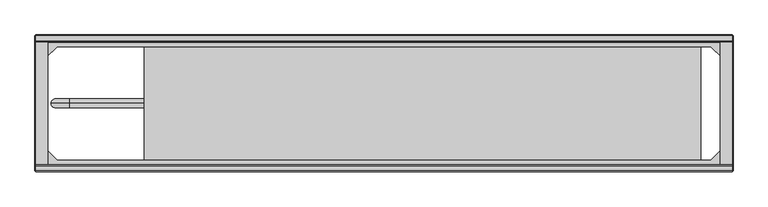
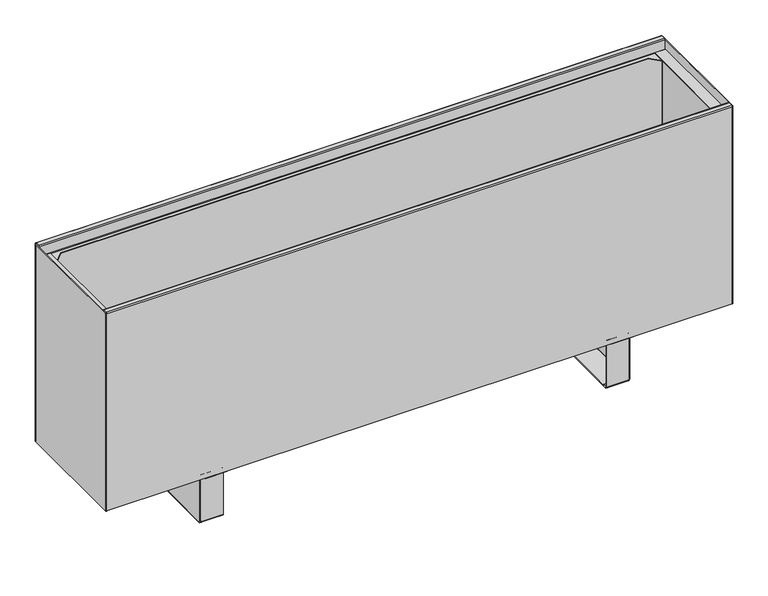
"""IFC4 building model written with IfcOpenShell, lengths in millimetres: proxy geometry, TECHNO_Конвектор напольный_Vita KPZ 235 : KPZ 235-400-2."""

from ifc_helpers import new_model, si_unit, point, frame, origin, place, context, project, spatial, polyline, circle_curve, ellipse_curve, trimmed, outline, extrude, source, transform, mapped, element, save
from ifc_brep_helpers import plane_surface, cylinder_surface, revolved_surface, advanced_brep


def mechanical_equipment_f758acba(model_context):
    return source(origin(), model_context, "Body", "SolidModel", [
        advanced_brep(
        [(409.7, -116.8, 1.5), (409.7, -114.5, 3.8), (409.7, -114.5, 4.9), (409.7, -116.0, 4.9), (409.7, -116.0, 3.8), (409.7, -116.8, 3.0), (409.7, -124.5, 3.0), (409.7, -124.5, 1.5), (409.7, -117.6, 1.5), (409.7, -114.5, 97.7), (409.7, -113.7, 98.5), (409.7, -101.0, 98.5), (409.7, -101.0, 100.0), (409.7, -113.7, 100.0), (409.7, -116.0, 97.7), (409.7, -116.0, 95.5), (409.7, -114.5, 95.5), (409.7, -320.5, 3.8), (409.7, -318.2, 1.5), (409.7, -317.4, 1.5), (409.7, -310.5, 1.5), (409.7, -310.5, 3.0), (409.7, -318.2, 3.0), (409.7, -319.0, 3.8), (409.7, -319.0, 4.9), (409.7, -320.5, 4.9), (409.7, -319.0, 97.7), (409.7, -321.3, 100.0), (409.7, -334.0, 100.0), (409.7, -334.0, 98.5), (409.7, -321.3, 98.5), (409.7, -320.5, 97.7), (409.7, -320.5, 95.5), (409.7, -319.0, 95.5), (367.0, -320.5, 97.7), (367.0, -321.3, 98.5), (367.0, -334.0, 98.5), (367.0, -334.0, 100.0), (367.0, -321.3, 100.0), (367.0, -319.0, 97.7), (367.0, -319.0, 3.8), (367.0, -318.2, 3.0), (367.0, -310.5, 3.0), (367.0, -310.5, 1.5), (367.0, -124.5, 1.5), (367.0, -124.5, 3.0), (367.0, -116.8, 3.0), (367.0, -116.0, 3.8), (367.0, -116.0, 97.7), (367.0, -113.7, 100.0), (367.0, -101.0, 100.0), (367.0, -101.0, 98.5), (367.0, -113.7, 98.5), (367.0, -114.5, 97.7), (367.0, -114.5, 3.8), (367.0, -116.8, 1.5), (367.0, -117.6, 1.5), (367.0, -117.6, 0.0), (367.0, -317.4, 0.0), (367.0, -317.4, 1.5), (367.0, -318.2, 1.5), (367.0, -320.5, 3.8), (410.5, -116.8, 95.5), (410.5, -318.2, 95.5), (412.0, -318.2, 95.5), (412.0, -116.8, 95.5), (412.0, -116.8, 4.9), (412.0, -117.6, 4.9), (410.5, -117.6, 4.9), (410.5, -116.8, 4.9), (410.5, -318.2, 4.9), (410.5, -317.4, 4.9), (412.0, -317.4, 4.9), (412.0, -318.2, 4.9), (410.5, -117.6, 2.3), (410.5, -317.4, 2.3), (411.9999999, -317.4, 2.3), (412.0, -117.6, 2.3), (409.7, -117.6, 0.0), (409.7, -317.4, 0.0)],
        [
            (0, 1, circle_curve(frame((409.7, -116.8, 3.8), z_axis=(1.0, 0.0, 0.0), x_axis=(0.0, -1.0, 0.0)), 2.3)),
            (1, 2),
            (2, 3),
            (3, 4),
            (4, 5, circle_curve(frame((409.7, -116.8, 3.8), z_axis=(-1.0, 0.0, 0.0), x_axis=(0.0, -1.0, 0.0)), 0.8)),
            (5, 6),
            (6, 7),
            (7, 8),
            (8, 0),
            (9, 10, circle_curve(frame((409.7, -113.7, 97.7), z_axis=(-1.0, 0.0, 0.0), x_axis=(0.0, -1.0, 0.0)), 0.8)),
            (10, 11),
            (11, 12),
            (12, 13),
            (13, 14, circle_curve(frame((409.7, -113.7, 97.7), z_axis=(1.0, 0.0, 0.0), x_axis=(0.0, -1.0, 0.0)), 2.3)),
            (14, 15),
            (15, 16),
            (16, 9),
            (17, 18, circle_curve(frame((409.7, -318.2, 3.8), z_axis=(1.0, 0.0, 0.0), x_axis=(0.0, -1.0, 0.0)), 2.3)),
            (18, 19),
            (19, 20),
            (20, 21),
            (21, 22),
            (22, 23, circle_curve(frame((409.7, -318.2, 3.8), z_axis=(-1.0, 0.0, 0.0), x_axis=(0.0, -1.0, 0.0)), 0.8)),
            (23, 24),
            (24, 25),
            (25, 17),
            (26, 27, circle_curve(frame((409.7, -321.3, 97.7), z_axis=(1.0, 0.0, 0.0), x_axis=(0.0, -1.0, 0.0)), 2.3)),
            (27, 28),
            (28, 29),
            (29, 30),
            (30, 31, circle_curve(frame((409.7, -321.3, 97.7), z_axis=(-1.0, 0.0, 0.0), x_axis=(0.0, -1.0, 0.0)), 0.8)),
            (31, 32),
            (32, 33),
            (33, 26),
            (34, 35, circle_curve(frame((367.0, -321.3, 97.7), z_axis=(1.0, 0.0, 0.0), x_axis=(0.0, -1.0, 0.0)), 0.8)),
            (35, 36),
            (36, 37),
            (37, 38),
            (38, 39, circle_curve(frame((367.0, -321.3, 97.7), z_axis=(-1.0, 0.0, 0.0), x_axis=(0.0, -1.0, 0.0)), 2.3)),
            (39, 40),
            (40, 41, circle_curve(frame((367.0, -318.2, 3.8), z_axis=(1.0, 0.0, 0.0), x_axis=(0.0, -1.0, 0.0)), 0.8)),
            (41, 42),
            (42, 43),
            (43, 44),
            (44, 45),
            (45, 46),
            (46, 47, circle_curve(frame((367.0, -116.8, 3.8), z_axis=(1.0, 0.0, 0.0), x_axis=(0.0, -1.0, 0.0)), 0.8)),
            (47, 48),
            (48, 49, circle_curve(frame((367.0, -113.7, 97.7), z_axis=(-1.0, 0.0, 0.0), x_axis=(0.0, -1.0, 0.0)), 2.3)),
            (49, 50),
            (50, 51),
            (51, 52),
            (52, 53, circle_curve(frame((367.0, -113.7, 97.7), z_axis=(1.0, 0.0, 0.0), x_axis=(0.0, -1.0, 0.0)), 0.8)),
            (53, 54),
            (54, 55, circle_curve(frame((367.0, -116.8, 3.8), z_axis=(-1.0, 0.0, 0.0), x_axis=(0.0, -1.0, 0.0)), 2.3)),
            (55, 56),
            (56, 57),
            (57, 58),
            (58, 59),
            (59, 60),
            (60, 61, circle_curve(frame((367.0, -318.2, 3.8), z_axis=(-1.0, 0.0, 0.0), x_axis=(0.0, -1.0, 0.0)), 2.3)),
            (61, 34),
            (30, 35),
            (34, 31),
            (29, 36),
            (28, 37),
            (27, 38),
            (26, 39),
            (33, 24),
            (23, 40),
            (22, 41),
            (5, 46),
            (45, 6),
            (4, 47),
            (3, 15),
            (14, 48),
            (13, 49),
            (12, 50),
            (11, 51),
            (10, 52),
            (9, 53),
            (16, 2),
            (1, 54),
            (0, 55),
            (8, 56),
            (17, 61),
            (60, 18),
            (25, 32),
            (21, 42),
            (20, 43),
            (59, 19),
            (44, 7),
            (15, 62, circle_curve(frame((409.7, -116.8, 95.5), z_axis=(0.0, 0.0, -1.0), x_axis=(-1.0, 0.0, 0.0)), 0.8)),
            (62, 63),
            (63, 33, circle_curve(frame((409.7, -318.2, 95.5), z_axis=(0.0, 0.0, -1.0), x_axis=(-1.0, 0.0, 0.0)), 0.8)),
            (32, 64, circle_curve(frame((409.7, -318.2, 95.5), z_axis=(0.0, 0.0, 1.0), x_axis=(-1.0, 0.0, 0.0)), 2.3)),
            (64, 65),
            (65, 16, circle_curve(frame((409.7, -116.8, 95.5), z_axis=(0.0, 0.0, 1.0), x_axis=(-1.0, 0.0, 0.0)), 2.3)),
            (2, 66, circle_curve(frame((409.7, -116.8, 4.9), z_axis=(0.0, 0.0, -1.0), x_axis=(-1.0, 0.0, 0.0)), 2.3)),
            (66, 67),
            (67, 68),
            (68, 69),
            (69, 3, circle_curve(frame((409.7, -116.8, 4.9), z_axis=(0.0, 0.0, 1.0), x_axis=(-1.0, 0.0, 0.0)), 0.8)),
            (24, 70, circle_curve(frame((409.7, -318.2, 4.9), z_axis=(0.0, 0.0, 1.0), x_axis=(-1.0, 0.0, 0.0)), 0.8)),
            (70, 71),
            (71, 72),
            (72, 73),
            (73, 25, circle_curve(frame((409.7, -318.2, 4.9), z_axis=(0.0, 0.0, -1.0), x_axis=(-1.0, 0.0, 0.0)), 2.3)),
            (69, 62),
            (68, 74),
            (74, 75),
            (75, 71),
            (70, 63),
            (64, 73),
            (72, 76),
            (76, 77),
            (77, 67),
            (66, 65),
            (8, 74, circle_curve(frame((409.7, -117.6, 2.3), z_axis=(0.0, -1.0, 0.0), x_axis=(-1.0, 0.0, 0.0)), 0.8)),
            (77, 78, circle_curve(frame((409.7, -117.6, 2.3), z_axis=(0.0, 1.0, 0.0), x_axis=(-1.0, 0.0, 0.0)), 2.3)),
            (78, 57),
            (58, 79),
            (79, 76, circle_curve(frame((409.7, -317.4, 2.3), z_axis=(0.0, -1.0, 0.0), x_axis=(-1.0, 0.0, 0.0)), 2.3)),
            (75, 19, circle_curve(frame((409.7, -317.4, 2.3), z_axis=(0.0, 1.0, 0.0), x_axis=(-1.0, 0.0, 0.0)), 0.8)),
            (20, 7),
            (79, 78),
        ],
        [
            plane_surface(frame((409.7, -322.1, 97.7), z_axis=(1.0, 0.0, 0.0), x_axis=(0.0, 0.0, 1.0))),
            plane_surface(frame((367.0, -322.1, 97.7), z_axis=(-1.0, 0.0, 0.0), x_axis=(0.0, 0.0, -1.0))),
            revolved_surface(polyline([(409.7, -322.1, 97.7), (367.0, -322.1, 97.7)]), (409.7, -321.3, 97.7), (1.0, 0.0, 0.0)),
            plane_surface(frame((367.0, -321.3, 98.5), z_axis=(0.0, 0.0, -1.0), x_axis=(1.0, 0.0, 0.0))),
            plane_surface(frame((367.0, -334.0, 98.5), z_axis=(0.0, -1.0, 0.0), x_axis=(1.0, 0.0, 0.0))),
            plane_surface(frame((367.0, -334.0, 100.0), z_axis=(0.0, 0.0, 1.0), x_axis=(1.0, 0.0, 0.0))),
            cylinder_surface(frame((409.7, -321.3, 97.7), z_axis=(-1.0, 0.0, 0.0), x_axis=(0.0, -1.0, 0.0)), 2.3),
            plane_surface(frame((367.0, -319.0, 97.7), z_axis=(0.0, 1.0, 3.691903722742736e-12), x_axis=(1.0, 0.0, 0.0))),
            revolved_surface(polyline([(409.7, -319.0, 3.8), (367.0, -319.0, 3.8)]), (409.7, -318.2, 3.8), (1.0, 0.0, 0.0)),
            plane_surface(frame((367.0, -124.5, 3.0), z_axis=(0.0, 0.0, 1.0), x_axis=(1.0, 0.0, 0.0))),
            revolved_surface(polyline([(409.7, -117.6, 3.8), (367.0, -117.6, 3.8)]), (412.0, -116.8, 3.8), (1.0, 0.0, 0.0)),
            plane_surface(frame((367.0, -116.0, 3.8), z_axis=(0.0, -1.0, 0.0), x_axis=(1.0, 0.0, 0.0))),
            cylinder_surface(frame((412.0, -113.7, 97.7), z_axis=(-1.0, 0.0, 0.0), x_axis=(0.0, -1.0, 0.0)), 2.3),
            plane_surface(frame((367.0, -113.7, 100.0), z_axis=(0.0, 0.0, 1.0), x_axis=(1.0, 0.0, 0.0))),
            plane_surface(frame((367.0, -101.0, 100.0), z_axis=(0.0, 1.0, 0.0), x_axis=(1.0, 0.0, 0.0))),
            plane_surface(frame((367.0, -101.0, 98.5), z_axis=(0.0, 0.0, -1.0), x_axis=(1.0, 0.0, 0.0))),
            revolved_surface(polyline([(409.7, -114.5, 97.7), (367.0, -114.5, 97.7)]), (412.0, -113.7, 97.7), (1.0, 0.0, 0.0)),
            plane_surface(frame((367.0, -114.5, 97.7), z_axis=(0.0, 1.0, 0.0), x_axis=(1.0, 0.0, 0.0))),
            cylinder_surface(frame((412.0, -116.8, 3.8), z_axis=(-1.0, 0.0, 0.0), x_axis=(0.0, -1.0, 0.0)), 2.3),
            plane_surface(frame((367.0, -116.8, 1.5), z_axis=(0.0, 0.0, -1.0), x_axis=(1.0, 0.0, 0.0))),
            cylinder_surface(frame((409.7, -318.2, 3.8), z_axis=(-1.0, 0.0, 0.0), x_axis=(0.0, -1.0, 0.0)), 2.3),
            plane_surface(frame((367.0, -320.5, 3.8), z_axis=(0.0, -1.0, 0.0), x_axis=(1.0, 0.0, 0.0))),
            plane_surface(frame((367.0, -318.2, 3.0), z_axis=(0.0, 0.0, 1.0), x_axis=(1.0, 0.0, 0.0))),
            plane_surface(frame((367.0, -310.5, 3.0), z_axis=(0.0, 1.0, 0.0), x_axis=(1.0, 0.0, 0.0))),
            plane_surface(frame((367.0, -310.5, 1.5), z_axis=(0.0, 0.0, -1.0), x_axis=(1.0, 0.0, 0.0))),
            plane_surface(frame((367.0, -124.5, 1.5), z_axis=(0.0, -1.0, 0.0), x_axis=(1.0, 0.0, 0.0))),
            plane_surface(frame((409.7, -116.0, 95.5), z_axis=(0.0, 0.0, 1.0), x_axis=(0.0, -1.0, 0.0))),
            plane_surface(frame((409.7, -116.0, 4.9), z_axis=(0.0, 0.0, -1.0), x_axis=(0.0, 1.0, 0.0))),
            revolved_surface(polyline([(408.9, -116.8, 4.9), (408.9, -116.8, 95.5)]), (409.7, -116.8, 4.9), (0.0, 0.0, -1.0)),
            plane_surface(frame((410.5, -116.8, 95.5), z_axis=(-1.0, 0.0, 0.0), x_axis=(0.0, 0.0, -1.0))),
            plane_surface(frame((412.0, -117.6, 95.5), z_axis=(1.0, -4.3226800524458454e-10, 0.0), x_axis=(0.0, 0.0, -1.0))),
            cylinder_surface(frame((409.7, -116.8, 4.9), z_axis=(0.0, 0.0, 1.0), x_axis=(-1.0, 0.0, 0.0)), 2.3),
            cylinder_surface(frame((409.7, -318.2, 0.0), z_axis=(0.0, 0.0, 1.0), x_axis=(-1.0, 0.0, 0.0)), 2.3),
            revolved_surface(polyline([(408.9, -318.2, 4.9), (408.9, -318.2, 95.5)]), (409.7, -318.2, 0.0), (0.0, 0.0, -1.0)),
            plane_surface(frame((367.0, -117.6, 1.5), z_axis=(0.0, 1.0, 0.0), x_axis=(0.0, 0.0, 1.0))),
            plane_surface(frame((367.0, -317.4, 1.5), z_axis=(0.0, -1.0, 0.0), x_axis=(0.0, 0.0, -1.0))),
            plane_surface(frame((367.0, -117.6, 1.5), z_axis=(0.0, 0.0, 1.0), x_axis=(0.0, -1.0, 0.0))),
            revolved_surface(polyline([(408.9, -317.4, 2.3), (408.9, -117.6, 2.3)]), (409.7, -317.4, 2.3), (0.0, -1.0, 0.0)),
            cylinder_surface(frame((409.7, -317.4, 2.3), z_axis=(0.0, 1.0, 0.0), x_axis=(-1.0, 0.0, 0.0)), 2.3),
            plane_surface(frame((409.7, -117.6, 0.0), z_axis=(0.0, 0.0, -1.0), x_axis=(0.0, -1.0, 0.0))),
        ],
        [
            (0, [[1, 2, 3, 4, 5, 6, 7, 8, 9]]),
            (0, [[10, 11, 12, 13, 14, 15, 16, 17]]),
            (0, [[18, 19, 20, 21, 22, 23, 24, 25, 26]]),
            (0, [[27, 28, 29, 30, 31, 32, 33, 34]]),
            (1, [[35, 36, 37, 38, 39, 40, 41, 42, 43, 44, 45, 46, 47, 48, 49, 50, 51, 52, 53, 54, 55, 56, 57, 58, 59, 60, 61, 62]]),
            (2, [[-31, 63, -35, 64]]),
            (3, [[-30, 65, -36, -63]]),
            (4, [[-29, 66, -37, -65]]),
            (5, [[-28, 67, -38, -66]]),
            (6, [[-27, 68, -39, -67]]),
            (7, [[-40, -68, -34, 69, -24, 70]]),
            (8, [[-23, 71, -41, -70]]),
            (9, [[-6, 72, -46, 73]]),
            (10, [[-5, 74, -47, -72]]),
            (11, [[-48, -74, -4, 75, -15, 76]]),
            (12, [[-14, 77, -49, -76]]),
            (13, [[-13, 78, -50, -77]]),
            (14, [[-12, 79, -51, -78]]),
            (15, [[-11, 80, -52, -79]]),
            (16, [[-10, 81, -53, -80]]),
            (17, [[-54, -81, -17, 82, -2, 83]]),
            (18, [[-1, 84, -55, -83]]),
            (19, [[-84, -9, 85, -56]]),
            (20, [[-18, 86, -61, 87]]),
            (21, [[-62, -86, -26, 88, -32, -64]]),
            (22, [[-22, 89, -42, -71]]),
            (23, [[-21, 90, -43, -89]]),
            (24, [[-87, -60, 91, -19]]),
            (25, [[-7, -73, -45, 92]]),
            (26, [[93, 94, 95, -33, 96, 97, 98, -16]]),
            (27, [[99, 100, 101, 102, 103, -3]]),
            (27, [[104, 105, 106, 107, 108, -25]]),
            (28, [[-93, -75, -103, 109]]),
            (29, [[-94, -109, -102, 110, 111, 112, -105, 113]]),
            (30, [[-97, 114, -107, 115, 116, 117, -100, 118]]),
            (31, [[-98, -118, -99, -82]]),
            (32, [[-96, -88, -108, -114]]),
            (33, [[-95, -113, -104, -69]]),
            (34, [[-57, -85, 119, -110, -101, -117, 120, 121]]),
            (35, [[122, 123, -115, -106, -112, 124, -91, -59]]),
            (36, [[125, -92, -44, -90]]),
            (37, [[-119, -8, -125, -20, -124, -111]]),
            (38, [[-120, -116, -123, 126]]),
            (39, [[-121, -126, -122, -58]]),
        ],
    ),
        advanced_brep(
        [(-409.7, -318.2, 1.5), (-409.7, -320.5, 3.8), (-409.7, -320.5, 4.9), (-409.7, -319.0, 4.9), (-409.7, -319.0, 3.8), (-409.7, -318.2, 3.0), (-409.7, -310.5, 3.0), (-409.7, -310.5, 1.5), (-409.7, -317.4, 1.5), (-409.7, -320.5, 97.7), (-409.7, -321.3, 98.5), (-409.7, -334.0, 98.5), (-409.7, -334.0, 100.0), (-409.7, -321.3, 100.0), (-409.7, -319.0, 97.7), (-409.7, -319.0, 95.5), (-409.7, -320.5, 95.5), (-409.7, -114.5, 3.8), (-409.7, -116.8, 1.5), (-409.7, -117.6, 1.5), (-409.7, -124.5, 1.5), (-409.7, -124.5, 3.0), (-409.7, -116.8, 3.0), (-409.7, -116.0, 3.8), (-409.7, -116.0, 4.9), (-409.7, -114.5, 4.9), (-409.7, -116.0, 97.7), (-409.7, -113.7, 100.0), (-409.7, -101.0, 100.0), (-409.7, -101.0, 98.5), (-409.7, -113.7, 98.5), (-409.7, -114.5, 97.7), (-409.7, -114.5, 95.5), (-409.7, -116.0, 95.5), (-367.0, -114.5, 97.7), (-367.0, -113.7, 98.5), (-367.0, -101.0, 98.5), (-367.0, -101.0, 100.0), (-367.0, -113.7, 100.0), (-367.0, -116.0, 97.7), (-367.0, -116.0, 3.8), (-367.0, -116.8, 3.0), (-367.0, -124.5, 3.0), (-367.0, -124.5, 1.5), (-367.0, -310.5, 1.5), (-367.0, -310.5, 3.0), (-367.0, -318.2, 3.0), (-367.0, -319.0, 3.8), (-367.0, -319.0, 97.7), (-367.0, -321.3, 100.0), (-367.0, -334.0, 100.0), (-367.0, -334.0, 98.5), (-367.0, -321.3, 98.5), (-367.0, -320.5, 97.7), (-367.0, -320.5, 3.8), (-367.0, -318.2, 1.5), (-367.0, -317.4, 1.5), (-367.0, -317.4, 0.0), (-367.0, -117.6, 0.0), (-367.0, -117.6, 1.5), (-367.0, -116.8, 1.5), (-367.0, -114.5, 3.8), (-410.5, -318.2, 95.5), (-410.5, -116.8, 95.5), (-412.0, -116.8, 95.5), (-412.0, -318.2, 95.5), (-412.0, -318.2, 4.9), (-412.0, -317.4, 4.9), (-410.5, -317.4, 4.9), (-410.5, -318.2, 4.9), (-410.5, -116.8, 4.9), (-410.5, -117.6, 4.9), (-412.0, -117.6, 4.9), (-412.0, -116.8, 4.9), (-410.5, -317.4, 2.3), (-410.5, -117.6, 2.3), (-411.9999999, -117.6, 2.3), (-412.0, -317.4, 2.3), (-409.7, -317.4, 0.0), (-409.7, -117.6, 0.0)],
        [
            (0, 1, circle_curve(frame((-409.7, -318.2, 3.8), z_axis=(-1.0, 0.0, 0.0), x_axis=(0.0, 1.0, 0.0)), 2.3)),
            (1, 2),
            (2, 3),
            (3, 4),
            (4, 5, circle_curve(frame((-409.7, -318.2, 3.8), z_axis=(1.0, 0.0, 0.0), x_axis=(0.0, 1.0, 0.0)), 0.8)),
            (5, 6),
            (6, 7),
            (7, 8),
            (8, 0),
            (9, 10, circle_curve(frame((-409.7, -321.3, 97.7), z_axis=(1.0, 0.0, 0.0), x_axis=(0.0, 1.0, 0.0)), 0.8)),
            (10, 11),
            (11, 12),
            (12, 13),
            (13, 14, circle_curve(frame((-409.7, -321.3, 97.7), z_axis=(-1.0, 0.0, 0.0), x_axis=(0.0, 1.0, 0.0)), 2.3)),
            (14, 15),
            (15, 16),
            (16, 9),
            (17, 18, circle_curve(frame((-409.7, -116.8, 3.8), z_axis=(-1.0, 0.0, 0.0), x_axis=(0.0, 1.0, 0.0)), 2.3)),
            (18, 19),
            (19, 20),
            (20, 21),
            (21, 22),
            (22, 23, circle_curve(frame((-409.7, -116.8, 3.8), z_axis=(1.0, 0.0, 0.0), x_axis=(0.0, 1.0, 0.0)), 0.8)),
            (23, 24),
            (24, 25),
            (25, 17),
            (26, 27, circle_curve(frame((-409.7, -113.7, 97.7), z_axis=(-1.0, 0.0, 0.0), x_axis=(0.0, 1.0, 0.0)), 2.3)),
            (27, 28),
            (28, 29),
            (29, 30),
            (30, 31, circle_curve(frame((-409.7, -113.7, 97.7), z_axis=(1.0, 0.0, 0.0), x_axis=(0.0, 1.0, 0.0)), 0.8)),
            (31, 32),
            (32, 33),
            (33, 26),
            (34, 35, circle_curve(frame((-367.0, -113.7, 97.7), z_axis=(-1.0, 0.0, 0.0), x_axis=(0.0, 1.0, 0.0)), 0.8)),
            (35, 36),
            (36, 37),
            (37, 38),
            (38, 39, circle_curve(frame((-367.0, -113.7, 97.7), z_axis=(1.0, 0.0, 0.0), x_axis=(0.0, 1.0, 0.0)), 2.3)),
            (39, 40),
            (40, 41, circle_curve(frame((-367.0, -116.8, 3.8), z_axis=(-1.0, 0.0, 0.0), x_axis=(0.0, 1.0, 0.0)), 0.8)),
            (41, 42),
            (42, 43),
            (43, 44),
            (44, 45),
            (45, 46),
            (46, 47, circle_curve(frame((-367.0, -318.2, 3.8), z_axis=(-1.0, 0.0, 0.0), x_axis=(0.0, 1.0, 0.0)), 0.8)),
            (47, 48),
            (48, 49, circle_curve(frame((-367.0, -321.3, 97.7), z_axis=(1.0, 0.0, 0.0), x_axis=(0.0, 1.0, 0.0)), 2.3)),
            (49, 50),
            (50, 51),
            (51, 52),
            (52, 53, circle_curve(frame((-367.0, -321.3, 97.7), z_axis=(-1.0, 0.0, 0.0), x_axis=(0.0, 1.0, 0.0)), 0.8)),
            (53, 54),
            (54, 55, circle_curve(frame((-367.0, -318.2, 3.8), z_axis=(1.0, 0.0, 0.0), x_axis=(0.0, 1.0, 0.0)), 2.3)),
            (55, 56),
            (56, 57),
            (57, 58),
            (58, 59),
            (59, 60),
            (60, 61, circle_curve(frame((-367.0, -116.8, 3.8), z_axis=(1.0, 0.0, 0.0), x_axis=(0.0, 1.0, 0.0)), 2.3)),
            (61, 34),
            (30, 35),
            (34, 31),
            (29, 36),
            (28, 37),
            (27, 38),
            (26, 39),
            (33, 24),
            (23, 40),
            (22, 41),
            (5, 46),
            (45, 6),
            (4, 47),
            (3, 15),
            (14, 48),
            (13, 49),
            (12, 50),
            (11, 51),
            (10, 52),
            (9, 53),
            (16, 2),
            (1, 54),
            (0, 55),
            (8, 56),
            (17, 61),
            (60, 18),
            (25, 32),
            (21, 42),
            (20, 43),
            (59, 19),
            (44, 7),
            (15, 62, circle_curve(frame((-409.7, -318.2, 95.5), z_axis=(0.0, 0.0, -1.0), x_axis=(1.0, 0.0, 0.0)), 0.8)),
            (62, 63),
            (63, 33, circle_curve(frame((-409.7, -116.8, 95.5), z_axis=(0.0, 0.0, -1.0), x_axis=(1.0, 0.0, 0.0)), 0.8)),
            (32, 64, circle_curve(frame((-409.7, -116.8, 95.5), z_axis=(0.0, 0.0, 1.0), x_axis=(1.0, 0.0, 0.0)), 2.3)),
            (64, 65),
            (65, 16, circle_curve(frame((-409.7, -318.2, 95.5), z_axis=(0.0, 0.0, 1.0), x_axis=(1.0, 0.0, 0.0)), 2.3)),
            (2, 66, circle_curve(frame((-409.7, -318.2, 4.9), z_axis=(0.0, 0.0, -1.0), x_axis=(1.0, 0.0, 0.0)), 2.3)),
            (66, 67),
            (67, 68),
            (68, 69),
            (69, 3, circle_curve(frame((-409.7, -318.2, 4.9), z_axis=(0.0, 0.0, 1.0), x_axis=(1.0, 0.0, 0.0)), 0.8)),
            (24, 70, circle_curve(frame((-409.7, -116.8, 4.9), z_axis=(0.0, 0.0, 1.0), x_axis=(1.0, 0.0, 0.0)), 0.8)),
            (70, 71),
            (71, 72),
            (72, 73),
            (73, 25, circle_curve(frame((-409.7, -116.8, 4.9), z_axis=(0.0, 0.0, -1.0), x_axis=(1.0, 0.0, 0.0)), 2.3)),
            (69, 62),
            (68, 74),
            (74, 75),
            (75, 71),
            (70, 63),
            (64, 73),
            (72, 76),
            (76, 77),
            (77, 67),
            (66, 65),
            (8, 74, circle_curve(frame((-409.7, -317.4, 2.3), z_axis=(0.0, 1.0, 0.0), x_axis=(1.0, 0.0, 0.0)), 0.8)),
            (77, 78, circle_curve(frame((-409.7, -317.4, 2.3), z_axis=(0.0, -1.0, 0.0), x_axis=(1.0, 0.0, 0.0)), 2.3)),
            (78, 57),
            (58, 79),
            (79, 76, circle_curve(frame((-409.7, -117.6, 2.3), z_axis=(0.0, 1.0, 0.0), x_axis=(1.0, 0.0, 0.0)), 2.3)),
            (75, 19, circle_curve(frame((-409.7, -117.6, 2.3), z_axis=(0.0, -1.0, 0.0), x_axis=(1.0, 0.0, 0.0)), 0.8)),
            (20, 7),
            (79, 78),
        ],
        [
            plane_surface(frame((-409.7, -112.9, 97.7), z_axis=(-1.0, 0.0, 0.0), x_axis=(0.0, 0.0, 1.0))),
            plane_surface(frame((-367.0, -112.9, 97.7), z_axis=(1.0, 0.0, 0.0), x_axis=(0.0, 0.0, -1.0))),
            revolved_surface(polyline([(-409.7, -112.9, 97.7), (-367.0, -112.9, 97.7)]), (-409.7, -113.7, 97.7), (-1.0, 0.0, 0.0)),
            plane_surface(frame((-367.0, -113.7, 98.5), z_axis=(0.0, 0.0, -1.0), x_axis=(-1.0, 0.0, 0.0))),
            plane_surface(frame((-367.0, -101.0, 98.5), z_axis=(0.0, 1.0, 0.0), x_axis=(-1.0, 0.0, 0.0))),
            plane_surface(frame((-367.0, -101.0, 100.0), z_axis=(0.0, 0.0, 1.0), x_axis=(-1.0, 0.0, 0.0))),
            cylinder_surface(frame((-409.7, -113.7, 97.7), z_axis=(1.0, 0.0, 0.0), x_axis=(0.0, 1.0, 0.0)), 2.3),
            plane_surface(frame((-367.0, -116.0, 97.7), z_axis=(0.0, -1.0, 3.691903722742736e-12), x_axis=(-1.0, 0.0, 0.0))),
            revolved_surface(polyline([(-409.7, -116.0, 3.8), (-367.0, -116.0, 3.8)]), (-409.7, -116.8, 3.8), (-1.0, 0.0, 0.0)),
            plane_surface(frame((-367.0, -310.5, 3.0), z_axis=(0.0, 0.0, 1.0), x_axis=(-1.0, 0.0, 0.0))),
            revolved_surface(polyline([(-409.7, -317.4, 3.8), (-367.0, -317.4, 3.8)]), (-412.0, -318.2, 3.8), (-1.0, 0.0, 0.0)),
            plane_surface(frame((-367.0, -319.0, 3.8), z_axis=(0.0, 1.0, 0.0), x_axis=(-1.0, 0.0, 0.0))),
            cylinder_surface(frame((-412.0, -321.3, 97.7), z_axis=(1.0, 0.0, 0.0), x_axis=(0.0, 1.0, 0.0)), 2.3),
            plane_surface(frame((-367.0, -321.3, 100.0), z_axis=(0.0, 0.0, 1.0), x_axis=(-1.0, 0.0, 0.0))),
            plane_surface(frame((-367.0, -334.0, 100.0), z_axis=(0.0, -1.0, 0.0), x_axis=(-1.0, 0.0, 0.0))),
            plane_surface(frame((-367.0, -334.0, 98.5), z_axis=(0.0, 0.0, -1.0), x_axis=(-1.0, 0.0, 0.0))),
            revolved_surface(polyline([(-409.7, -320.5, 97.7), (-367.0, -320.5, 97.7)]), (-412.0, -321.3, 97.7), (-1.0, 0.0, 0.0)),
            plane_surface(frame((-367.0, -320.5, 97.7), z_axis=(0.0, -1.0, 0.0), x_axis=(-1.0, 0.0, 0.0))),
            cylinder_surface(frame((-412.0, -318.2, 3.8), z_axis=(1.0, 0.0, 0.0), x_axis=(0.0, 1.0, 0.0)), 2.3),
            plane_surface(frame((-367.0, -318.2, 1.5), z_axis=(0.0, 0.0, -1.0), x_axis=(-1.0, 0.0, 0.0))),
            cylinder_surface(frame((-409.7, -116.8, 3.8), z_axis=(1.0, 0.0, 0.0), x_axis=(0.0, 1.0, 0.0)), 2.3),
            plane_surface(frame((-367.0, -114.5, 3.8), z_axis=(0.0, 1.0, 0.0), x_axis=(-1.0, 0.0, 0.0))),
            plane_surface(frame((-367.0, -116.8, 3.0), z_axis=(0.0, 0.0, 1.0), x_axis=(-1.0, 0.0, 0.0))),
            plane_surface(frame((-367.0, -124.5, 3.0), z_axis=(0.0, -1.0, 0.0), x_axis=(-1.0, 0.0, 0.0))),
            plane_surface(frame((-367.0, -124.5, 1.5), z_axis=(0.0, 0.0, -1.0), x_axis=(-1.0, 0.0, 0.0))),
            plane_surface(frame((-367.0, -310.5, 1.5), z_axis=(0.0, 1.0, 0.0), x_axis=(-1.0, 0.0, 0.0))),
            plane_surface(frame((-409.7, -319.0, 95.5), z_axis=(0.0, 0.0, 1.0), x_axis=(0.0, 1.0, 0.0))),
            plane_surface(frame((-409.7, -319.0, 4.9), z_axis=(0.0, 0.0, -1.0), x_axis=(0.0, -1.0, 0.0))),
            revolved_surface(polyline([(-408.9, -318.2, 4.9), (-408.9, -318.2, 95.5)]), (-409.7, -318.2, 4.9), (0.0, 0.0, -1.0)),
            plane_surface(frame((-410.5, -318.2, 95.5), z_axis=(1.0, 0.0, 0.0), x_axis=(0.0, 0.0, -1.0))),
            plane_surface(frame((-412.0, -317.4, 95.5), z_axis=(-1.0, 4.3226484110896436e-10, 0.0), x_axis=(0.0, 0.0, -1.0))),
            cylinder_surface(frame((-409.7, -318.2, 4.9), z_axis=(0.0, 0.0, 1.0), x_axis=(1.0, 0.0, 0.0)), 2.3),
            cylinder_surface(frame((-409.7, -116.8, 0.0), z_axis=(0.0, 0.0, 1.0), x_axis=(1.0, 0.0, 0.0)), 2.3),
            revolved_surface(polyline([(-408.9, -116.8, 4.9), (-408.9, -116.8, 95.5)]), (-409.7, -116.8, 0.0), (0.0, 0.0, -1.0)),
            plane_surface(frame((-367.0, -317.4, 1.5), z_axis=(0.0, -1.0, 0.0), x_axis=(0.0, 0.0, 1.0))),
            plane_surface(frame((-367.0, -117.6, 1.5), z_axis=(0.0, 1.0, 0.0), x_axis=(0.0, 0.0, -1.0))),
            plane_surface(frame((-367.0, -317.4, 1.5), z_axis=(0.0, 0.0, 1.0), x_axis=(0.0, 1.0, 0.0))),
            revolved_surface(polyline([(-408.9, -117.6, 2.3), (-408.9, -317.4, 2.3)]), (-409.7, -117.6, 2.3), (0.0, 1.0, 0.0)),
            cylinder_surface(frame((-409.7, -117.6, 2.3), z_axis=(0.0, -1.0, 0.0), x_axis=(1.0, 0.0, 0.0)), 2.3),
            plane_surface(frame((-409.7, -317.4, 0.0), z_axis=(0.0, 0.0, -1.0), x_axis=(0.0, 1.0, 0.0))),
        ],
        [
            (0, [[1, 2, 3, 4, 5, 6, 7, 8, 9]]),
            (0, [[10, 11, 12, 13, 14, 15, 16, 17]]),
            (0, [[18, 19, 20, 21, 22, 23, 24, 25, 26]]),
            (0, [[27, 28, 29, 30, 31, 32, 33, 34]]),
            (1, [[35, 36, 37, 38, 39, 40, 41, 42, 43, 44, 45, 46, 47, 48, 49, 50, 51, 52, 53, 54, 55, 56, 57, 58, 59, 60, 61, 62]]),
            (2, [[-31, 63, -35, 64]]),
            (3, [[-30, 65, -36, -63]]),
            (4, [[-29, 66, -37, -65]]),
            (5, [[-28, 67, -38, -66]]),
            (6, [[-27, 68, -39, -67]]),
            (7, [[-40, -68, -34, 69, -24, 70]]),
            (8, [[-23, 71, -41, -70]]),
            (9, [[-6, 72, -46, 73]]),
            (10, [[-5, 74, -47, -72]]),
            (11, [[-48, -74, -4, 75, -15, 76]]),
            (12, [[-14, 77, -49, -76]]),
            (13, [[-13, 78, -50, -77]]),
            (14, [[-12, 79, -51, -78]]),
            (15, [[-11, 80, -52, -79]]),
            (16, [[-10, 81, -53, -80]]),
            (17, [[-54, -81, -17, 82, -2, 83]]),
            (18, [[-1, 84, -55, -83]]),
            (19, [[-84, -9, 85, -56]]),
            (20, [[-18, 86, -61, 87]]),
            (21, [[-62, -86, -26, 88, -32, -64]]),
            (22, [[-22, 89, -42, -71]]),
            (23, [[-21, 90, -43, -89]]),
            (24, [[-87, -60, 91, -19]]),
            (25, [[-7, -73, -45, 92]]),
            (26, [[93, 94, 95, -33, 96, 97, 98, -16]]),
            (27, [[99, 100, 101, 102, 103, -3]]),
            (27, [[104, 105, 106, 107, 108, -25]]),
            (28, [[-93, -75, -103, 109]]),
            (29, [[-94, -109, -102, 110, 111, 112, -105, 113]]),
            (30, [[-97, 114, -107, 115, 116, 117, -100, 118]]),
            (31, [[-98, -118, -99, -82]]),
            (32, [[-96, -88, -108, -114]]),
            (33, [[-95, -113, -104, -69]]),
            (34, [[-57, -85, 119, -110, -101, -117, 120, 121]]),
            (35, [[122, 123, -115, -106, -112, 124, -91, -59]]),
            (36, [[125, -92, -44, -90]]),
            (37, [[-119, -8, -125, -20, -124, -111]]),
            (38, [[-120, -116, -123, 126]]),
            (39, [[-121, -126, -122, -58]]),
        ],
    ),
        advanced_brep(
        [(-412.0, -217.5, 186.5), (-412.0, -217.5, 171.5), (-540.0, -217.5, 186.5), (-540.0, -217.5, 171.5), (-557.5, -217.5, 154.0), (-572.5, -217.5, 154.0), (-572.5, -217.5, 100.0), (-557.5, -217.5, 100.0)],
        [
            (0, 1, circle_curve(frame((-412.0, -217.5, 179.0), z_axis=(1.0, 0.0, 0.0), x_axis=(0.0, 0.0, -1.0)), 7.5)),
            (1, 0, circle_curve(frame((-412.0, -217.5, 179.0), z_axis=(1.0, 0.0, 0.0), x_axis=(0.0, 0.0, -1.0)), 7.5)),
            (0, 2),
            (2, 3, circle_curve(frame((-540.0, -217.5, 179.0), z_axis=(1.0, 0.0, 0.0), x_axis=(0.0, 0.0, -1.0)), 7.5)),
            (3, 1),
            (3, 2, circle_curve(frame((-540.0, -217.5, 179.0), z_axis=(1.0, 0.0, 0.0), x_axis=(0.0, 0.0, -1.0)), 7.5)),
            (4, 3, circle_curve(frame((-540.0, -217.5, 154.0), z_axis=(0.0, 1.0, 0.0), x_axis=(0.0, 0.0, 1.0)), 17.5)),
            (2, 5, circle_curve(frame((-540.0, -217.5, 154.0), z_axis=(0.0, -1.0, 0.0), x_axis=(0.0, 0.0, 1.0)), 32.5)),
            (5, 4, circle_curve(frame((-565.0, -217.5, 154.0), z_axis=(0.0, 0.0, 1.0), x_axis=(1.0, 0.0, 0.0)), 7.5)),
            (4, 5, circle_curve(frame((-565.0, -217.5, 154.0), z_axis=(0.0, 0.0, 1.0), x_axis=(1.0, 0.0, 0.0)), 7.5)),
            (6, 7, circle_curve(frame((-565.0, -217.5, 100.0), z_axis=(0.0, 0.0, -1.0), x_axis=(1.0, 0.0, 0.0)), 7.5)),
            (7, 6, circle_curve(frame((-565.0, -217.5, 100.0), z_axis=(0.0, 0.0, -1.0), x_axis=(1.0, 0.0, 0.0)), 7.5)),
            (5, 6),
            (7, 4),
        ],
        [
            plane_surface(frame((-412.0, -217.5, 179.0), z_axis=(1.0, 0.0, 0.0), x_axis=(0.0, -1.0, 0.0))),
            cylinder_surface(frame((-412.0, -217.5, 179.0), z_axis=(1.0, 0.0, 0.0), x_axis=(0.0, 0.0, -1.0)), 7.5),
            revolved_surface(trimmed(ellipse_curve(frame((-540.0, -217.5, 179.0), z_axis=(1.0, 0.0, 0.0), x_axis=(0.0, 0.0, -1.0)), 7.5, 7.5), [point((-540.0, -217.5, 186.5))], [point((-540.0, -217.5, 171.5))], True, "CARTESIAN"), (-540.0, -217.5, 154.0), (0.0, -1.0, 0.0)),
            revolved_surface(trimmed(ellipse_curve(frame((-540.0, -217.5, 179.0), z_axis=(1.0, 0.0, 0.0), x_axis=(0.0, 0.0, -1.0)), 7.5, 7.5), [point((-540.0, -217.5, 171.5))], [point((-540.0, -217.5, 186.5))], True, "CARTESIAN"), (-540.0, -217.5, 154.0), (0.0, -1.0, 0.0)),
            plane_surface(frame((-565.0, -217.5, 100.0), z_axis=(0.0, 0.0, -1.0), x_axis=(0.0, -1.0, 0.0))),
            cylinder_surface(frame((-565.0, -217.5, 154.0), z_axis=(0.0, 0.0, 1.0), x_axis=(1.0, 0.0, 0.0)), 7.5),
        ],
        [
            (0, [[1, 2]]),
            (1, [[-1, 3, 4, 5]]),
            (1, [[-2, -5, 6, -3]]),
            (2, [[7, -4, 8, 9]]),
            (3, [[-8, -6, -7, 10]]),
            (4, [[11, 12]]),
            (5, [[-9, 13, -12, 14]]),
            (5, [[-10, -14, -11, -13]]),
        ],
    ),
        advanced_brep(
        [(-412.0, -217.5, 136.5), (-412.0, -217.5, 121.5), (-522.5, -217.5, 136.5), (-507.5, -217.5, 121.5), (-522.5, -217.5, 100.0), (-507.5, -217.5, 100.0)],
        [
            (0, 1, circle_curve(frame((-412.0, -217.5, 129.0), z_axis=(1.0, 0.0, 0.0), x_axis=(0.0, 0.0, -1.0)), 7.5)),
            (1, 0, circle_curve(frame((-412.0, -217.5, 129.0), z_axis=(1.0, 0.0, 0.0), x_axis=(0.0, 0.0, -1.0)), 7.5)),
            (0, 2),
            (2, 3, ellipse_curve(frame((-515.0, -217.5, 129.0), z_axis=(0.7071067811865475, 0.0, 0.7071067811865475), x_axis=(0.7071067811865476, 0.0, -0.7071067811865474)), 10.6066017, 7.5)),
            (3, 1),
            (3, 2, ellipse_curve(frame((-515.0, -217.5, 129.0), z_axis=(0.7071067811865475, 0.0, 0.7071067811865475), x_axis=(0.7071067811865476, 0.0, -0.7071067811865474)), 10.6066017, 7.5)),
            (4, 5, circle_curve(frame((-515.0, -217.5, 100.0), z_axis=(0.0, 0.0, -1.0), x_axis=(1.0, 0.0, 0.0)), 7.5)),
            (5, 4, circle_curve(frame((-515.0, -217.5, 100.0), z_axis=(0.0, 0.0, -1.0), x_axis=(1.0, 0.0, 0.0)), 7.5)),
            (2, 4),
            (5, 3),
        ],
        [
            plane_surface(frame((-412.0, -217.5, 129.0), z_axis=(1.0, 0.0, 0.0), x_axis=(0.0, -1.0, 0.0))),
            cylinder_surface(frame((-412.0, -217.5, 129.0), z_axis=(1.0, 0.0, 0.0), x_axis=(0.0, 0.0, -1.0)), 7.5),
            plane_surface(frame((-515.0, -217.5, 100.0), z_axis=(0.0, 0.0, -1.0), x_axis=(0.0, -1.0, 0.0))),
            cylinder_surface(frame((-515.0, -217.5, 129.0), z_axis=(0.0, 0.0, 1.0), x_axis=(1.0, 0.0, 0.0)), 7.5),
        ],
        [
            (0, [[1, 2]]),
            (1, [[-1, 3, 4, 5]]),
            (1, [[-2, -5, 6, -3]]),
            (2, [[7, 8]]),
            (3, [[-4, 9, -8, 10]]),
            (3, [[-6, -10, -7, -9]]),
        ],
    ),
        extrude(outline(polyline([(544.75, -117.5), (544.75, -317.5), (-412.0, -317.5), (-412.0, -117.5), (544.75, -117.5)])), frame((0.0, 0.0, 103.87), z_axis=(0.0, 0.0, 1.0), x_axis=(1.0, 0.0, 0.0)), (0.0, 0.0, 1.0), 100.0),
        extrude(outline(polyline([(-585.5004, -102.0), (-585.5004, -333.0), (-599.0, -333.0), (-599.0, -102.0), (-585.5004, -102.0)])), frame((0.0, 0.0, 101.83), z_axis=(0.0, 0.0, 1.0), x_axis=(1.0, 0.0, 0.0)), (0.0, 0.0, 1.0), 1.0002),
        extrude(outline(polyline([(585.5004, -102.0), (599.0, -102.0), (599.0, -333.0), (585.5004, -333.0), (585.5004, -102.0)])), frame((0.0, 0.0, 101.83), z_axis=(0.0, 0.0, 1.0), x_axis=(1.0, 0.0, 0.0)), (0.0, 0.0, 1.0), 1.0002),
        extrude(outline(polyline([(-599.0, -322.2), (-599.0, -112.8), (-578.0, -112.8), (-578.0, -322.2), (-599.0, -322.2)])), frame((0.0, 0.0, 478.83), z_axis=(0.0, 0.0, 1.0), x_axis=(1.0, 0.0, 0.0)), (0.0, 0.0, 1.0), 1.0002),
        extrude(outline(polyline([(599.0, -322.2), (578.0, -322.2), (578.0, -112.8), (599.0, -112.8), (599.0, -322.2)])), frame((0.0, 0.0, 478.83), z_axis=(0.0, 0.0, 1.0), x_axis=(1.0, 0.0, 0.0)), (0.0, 0.0, 1.0), 1.0002),
        advanced_brep(
        [(-598.2, -101.8, 500.83), (-598.2, -100.0, 499.03), (-598.2, -101.0, 499.03), (-598.2, -101.0, 477.83), (-598.2, -138.5, 477.83), (-598.2, -138.5, 478.83), (-598.2, -112.8, 478.83), (-598.2, -112.0, 479.63), (-598.2, -112.0, 499.03), (-598.2, -110.2, 500.83), (-598.2, -333.2, 500.83), (-598.2, -324.8, 500.83), (-598.2, -323.0, 499.03), (-598.2, -323.0, 479.63), (-598.2, -322.2, 478.83), (-598.2, -296.5, 478.83), (-598.2, -296.5, 477.83), (-598.2, -334.0, 477.83), (-598.2, -334.0, 499.03), (-598.2, -335.0, 499.03), (598.2, -101.8, 500.83), (598.2, -110.2, 500.83), (598.2, -112.0, 499.03), (598.2, -112.0, 479.63), (598.2, -112.8, 478.83), (598.2, -138.5, 478.83), (598.2, -138.5, 477.83), (598.2, -101.0, 477.83), (598.2, -101.0, 499.03), (598.2, -100.0, 499.03), (598.2, -333.2, 500.83), (598.2, -335.0, 499.03), (598.2, -334.0, 499.03), (598.2, -334.0, 477.83), (598.2, -296.5, 477.83), (598.2, -296.5, 478.83), (598.2, -322.2, 478.83), (598.2, -323.0, 479.63), (598.2, -323.0, 499.03), (598.2, -324.8, 500.83), (-580.3, -138.5, 478.83), (-561.8, -120.0, 478.83), (561.8, -120.0, 478.83), (580.3, -138.5, 478.83), (-580.3, -138.5, 477.83), (580.3, -138.5, 477.83), (561.8, -120.0, 477.83), (-561.8, -120.0, 477.83), (598.2, -100.0, 100.0), (-598.2, -100.0, 100.0), (-598.2, -335.0, 100.0), (598.2, -335.0, 100.0), (580.3, -296.5, 477.83), (-580.3, -296.5, 477.83), (-561.8, -315.0, 477.83), (561.8, -315.0, 477.83), (-580.3, -296.5, 478.83), (580.3, -296.5, 478.83), (561.8, -315.0, 478.83), (-561.8, -315.0, 478.83), (-600.0, -101.8, 499.03), (-600.0, -333.2, 499.03), (-599.0, -333.2, 499.03), (-599.0, -101.8, 499.03), (600.0, -333.2, 499.03), (600.0, -101.8, 499.03), (599.0, -101.8, 499.03), (599.0, -333.2, 499.03), (600.0, -101.8, 100.0), (600.0, -333.2, 100.0), (-600.0, -333.2, 100.0), (-600.0, -101.8, 100.0), (599.0, -101.8, 100.0), (598.2, -101.0, 100.0), (598.2, -113.0, 100.0), (-598.2, -113.0, 100.0), (-598.2, -101.0, 100.0), (-599.0, -101.8, 100.0), (-599.0, -333.2, 100.0), (-598.2, -334.0, 100.0), (-598.2, -322.0, 100.0), (598.2, -322.0, 100.0), (598.2, -334.0, 100.0), (599.0, -333.2, 100.0), (-598.2, -101.0, 100.83), (598.2, -101.0, 100.83), (598.2, -334.0, 100.83), (-598.2, -334.0, 100.83), (-598.2, -113.0, 100.83), (598.2, -113.0, 100.83), (598.2, -322.0, 100.83), (-598.2, -322.0, 100.83)],
        [
            (0, 1, circle_curve(frame((-598.2, -101.8, 499.03), z_axis=(-1.0, 0.0, 0.0), x_axis=(0.0, 1.0, 0.0)), 1.8)),
            (1, 2),
            (2, 3),
            (3, 4),
            (4, 5),
            (5, 6),
            (6, 7, circle_curve(frame((-598.2, -112.8, 479.63), z_axis=(1.0, 0.0, 0.0), x_axis=(0.0, 1.0, 0.0)), 0.8)),
            (7, 8),
            (8, 9, circle_curve(frame((-598.2, -110.2, 499.03), z_axis=(-1.0, 0.0, 0.0), x_axis=(0.0, 1.0, 0.0)), 1.8)),
            (9, 0),
            (10, 11),
            (11, 12, circle_curve(frame((-598.2, -324.8, 499.03), z_axis=(-1.0, 0.0, 0.0), x_axis=(0.0, 1.0, 0.0)), 1.8)),
            (12, 13),
            (13, 14, circle_curve(frame((-598.2, -322.2, 479.63), z_axis=(1.0, 0.0, 0.0), x_axis=(0.0, 1.0, 0.0)), 0.8)),
            (14, 15),
            (15, 16),
            (16, 17),
            (17, 18),
            (18, 19),
            (19, 10, circle_curve(frame((-598.2, -333.2, 499.03), z_axis=(-1.0, 0.0, 0.0), x_axis=(0.0, 1.0, 0.0)), 1.8)),
            (20, 21),
            (21, 22, circle_curve(frame((598.2, -110.2, 499.03), z_axis=(1.0, 0.0, 0.0), x_axis=(0.0, 1.0, 0.0)), 1.8)),
            (22, 23),
            (23, 24, circle_curve(frame((598.2, -112.8, 479.63), z_axis=(-1.0, 0.0, 0.0), x_axis=(0.0, 1.0, 0.0)), 0.8)),
            (24, 25),
            (25, 26),
            (26, 27),
            (27, 28),
            (28, 29),
            (29, 20, circle_curve(frame((598.2, -101.8, 499.03), z_axis=(1.0, 0.0, 0.0), x_axis=(0.0, 1.0, 0.0)), 1.8)),
            (30, 31, circle_curve(frame((598.2, -333.2, 499.03), z_axis=(1.0, 0.0, 0.0), x_axis=(0.0, 1.0, 0.0)), 1.8)),
            (31, 32),
            (32, 33),
            (33, 34),
            (34, 35),
            (35, 36),
            (36, 37, circle_curve(frame((598.2, -322.2, 479.63), z_axis=(-1.0, 0.0, 0.0), x_axis=(0.0, 1.0, 0.0)), 0.8)),
            (37, 38),
            (38, 39, circle_curve(frame((598.2, -324.8, 499.03), z_axis=(1.0, 0.0, 0.0), x_axis=(0.0, 1.0, 0.0)), 1.8)),
            (39, 30),
            (9, 21),
            (20, 0),
            (8, 22),
            (7, 23),
            (6, 24),
            (5, 40),
            (40, 41),
            (41, 42),
            (42, 43),
            (43, 25),
            (4, 44),
            (44, 40),
            (43, 45),
            (45, 26),
            (45, 46),
            (46, 47),
            (47, 44),
            (3, 27),
            (1, 29),
            (29, 48),
            (48, 49),
            (49, 1),
            (19, 31),
            (30, 10),
            (19, 50),
            (50, 51),
            (51, 31),
            (52, 34),
            (33, 17),
            (16, 53),
            (53, 54),
            (54, 55),
            (55, 52),
            (15, 56),
            (56, 53),
            (52, 57),
            (57, 35),
            (14, 36),
            (57, 58),
            (58, 59),
            (59, 56),
            (13, 37),
            (12, 38),
            (11, 39),
            (42, 46),
            (41, 47),
            (58, 55),
            (54, 59),
            (1, 60, circle_curve(frame((-598.2, -101.8, 499.03), z_axis=(0.0, 0.0, 1.0), x_axis=(1.0, 0.0, 0.0)), 1.8)),
            (60, 61),
            (61, 19, circle_curve(frame((-598.2, -333.2, 499.03), z_axis=(0.0, 0.0, 1.0), x_axis=(1.0, 0.0, 0.0)), 1.8)),
            (18, 62, circle_curve(frame((-598.2, -333.2, 499.03), z_axis=(0.0, 0.0, -1.0), x_axis=(1.0, 0.0, 0.0)), 0.8)),
            (62, 63),
            (63, 2, circle_curve(frame((-598.2, -101.8, 499.03), z_axis=(0.0, 0.0, -1.0), x_axis=(1.0, 0.0, 0.0)), 0.8)),
            (31, 64, circle_curve(frame((598.2, -333.2, 499.03), z_axis=(0.0, 0.0, 1.0), x_axis=(1.0, 0.0, 0.0)), 1.8)),
            (64, 65),
            (65, 29, circle_curve(frame((598.2, -101.8, 499.03), z_axis=(0.0, 0.0, 1.0), x_axis=(1.0, 0.0, 0.0)), 1.8)),
            (28, 66, circle_curve(frame((598.2, -101.8, 499.03), z_axis=(0.0, 0.0, -1.0), x_axis=(1.0, 0.0, 0.0)), 0.8)),
            (66, 67),
            (67, 32, circle_curve(frame((598.2, -333.2, 499.03), z_axis=(0.0, 0.0, -1.0), x_axis=(1.0, 0.0, 0.0)), 0.8)),
            (48, 68, circle_curve(frame((598.2, -101.8, 100.0), z_axis=(0.0, 0.0, -1.0), x_axis=(1.0, 0.0, 0.0)), 1.8)),
            (68, 69),
            (69, 51, circle_curve(frame((598.2, -333.2, 100.0), z_axis=(0.0, 0.0, -1.0), x_axis=(1.0, 0.0, 0.0)), 1.8)),
            (50, 70, circle_curve(frame((-598.2, -333.2, 100.0), z_axis=(0.0, 0.0, -1.0), x_axis=(1.0, 0.0, 0.0)), 1.8)),
            (70, 71),
            (71, 49, circle_curve(frame((-598.2, -101.8, 100.0), z_axis=(0.0, 0.0, -1.0), x_axis=(1.0, 0.0, 0.0)), 1.8)),
            (72, 73, circle_curve(frame((598.2, -101.8, 100.0), z_axis=(0.0, 0.0, 1.0), x_axis=(1.0, 0.0, 0.0)), 0.8)),
            (73, 74),
            (74, 75),
            (75, 76),
            (76, 77, circle_curve(frame((-598.2, -101.8, 100.0), z_axis=(0.0, 0.0, 1.0), x_axis=(1.0, 0.0, 0.0)), 0.8)),
            (77, 78),
            (78, 79, circle_curve(frame((-598.2, -333.2, 100.0), z_axis=(0.0, 0.0, 1.0), x_axis=(1.0, 0.0, 0.0)), 0.8)),
            (79, 80),
            (80, 81),
            (81, 82),
            (82, 83, circle_curve(frame((598.2, -333.2, 100.0), z_axis=(0.0, 0.0, 1.0), x_axis=(1.0, 0.0, 0.0)), 0.8)),
            (83, 72),
            (71, 60),
            (63, 77),
            (76, 84),
            (84, 3),
            (84, 85),
            (85, 27),
            (85, 73),
            (72, 66),
            (83, 67),
            (64, 69),
            (68, 65),
            (82, 86),
            (86, 33),
            (86, 87),
            (87, 17),
            (87, 79),
            (78, 62),
            (70, 61),
            (88, 89),
            (89, 85),
            (84, 88),
            (90, 91),
            (91, 87),
            (86, 90),
            (74, 89),
            (88, 75),
            (80, 91),
            (90, 81),
        ],
        [
            plane_surface(frame((-598.2, -110.2, 500.83), z_axis=(-1.0, 0.0, 0.0), x_axis=(0.0, 1.0, 0.0))),
            plane_surface(frame((598.2, -110.2, 500.83), z_axis=(1.0, 0.0, 0.0), x_axis=(0.0, -1.0, 0.0))),
            plane_surface(frame((598.2, -101.8, 500.83), z_axis=(0.0, 0.0, 1.0), x_axis=(-1.0, 0.0, 0.0))),
            cylinder_surface(frame((-598.2, -110.2, 499.03), z_axis=(1.0, 0.0, 0.0), x_axis=(0.0, 1.0, 0.0)), 1.8),
            plane_surface(frame((598.2, -112.0, 499.03), z_axis=(0.0, -1.0, 0.0), x_axis=(-1.0, 0.0, 0.0))),
            revolved_surface(polyline([(-598.2, -112.0, 479.63), (598.2, -112.0, 479.63)]), (-598.2, -112.8, 479.63), (-1.0, 0.0, 0.0)),
            plane_surface(frame((598.2, -112.8, 478.83), z_axis=(0.0, 0.0, 1.0), x_axis=(-1.0, 0.0, 0.0))),
            plane_surface(frame((598.2, -138.5, 478.83), z_axis=(0.0, -1.0, 0.0), x_axis=(-1.0, 0.0, 0.0))),
            plane_surface(frame((598.2, -138.5, 477.83), z_axis=(0.0, 0.0, -1.0), x_axis=(-1.0, 0.0, 0.0))),
            plane_surface(frame((598.2, -100.0, 477.83), z_axis=(0.0, 1.0, 0.0), x_axis=(-1.0, 0.0, 0.0))),
            cylinder_surface(frame((-598.2, -101.8, 499.03), z_axis=(1.0, 0.0, 0.0), x_axis=(0.0, 1.0, 0.0)), 1.8),
            cylinder_surface(frame((0.0, -333.2, 499.03), z_axis=(1.0, 0.0, 0.0), x_axis=(0.0, 1.0, 0.0)), 1.8),
            plane_surface(frame((598.2, -335.0, 499.03), z_axis=(0.0, -1.0, 0.0), x_axis=(-1.0, 0.0, 0.0))),
            plane_surface(frame((598.2, -335.0, 477.83), z_axis=(0.0, 0.0, -1.0), x_axis=(-1.0, 0.0, 0.0))),
            plane_surface(frame((598.2, -296.5, 477.83), z_axis=(0.0, 1.0, 0.0), x_axis=(-1.0, 0.0, 0.0))),
            plane_surface(frame((598.2, -296.5, 478.83), z_axis=(0.0, 0.0, 1.0), x_axis=(-1.0, 0.0, 0.0))),
            revolved_surface(polyline([(-598.2, -321.4, 479.63), (598.2, -321.4, 479.63)]), (0.0, -322.2, 479.63), (-1.0, 0.0, 0.0)),
            plane_surface(frame((598.2, -323.0, 479.63), z_axis=(0.0, 1.0, 0.0), x_axis=(-1.0, 0.0, 0.0))),
            cylinder_surface(frame((0.0, -324.8, 499.03), z_axis=(1.0, 0.0, 0.0), x_axis=(0.0, 1.0, 0.0)), 1.8),
            plane_surface(frame((598.2, -324.8, 500.83), z_axis=(0.0, 0.0, 1.0), x_axis=(-1.0, 0.0, 0.0))),
            plane_surface(frame((580.3, -138.5, 478.83), z_axis=(-0.7071067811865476, -0.7071067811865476, 0.0), x_axis=(0.0, 0.0, -1.0))),
            plane_surface(frame((561.8, -120.0, 478.83), z_axis=(0.0, -1.0, 0.0), x_axis=(0.0, 0.0, -1.0))),
            plane_surface(frame((-561.8, -120.0, 478.83), z_axis=(0.7071067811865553, -0.7071067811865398, 0.0), x_axis=(0.0, 0.0, -1.0))),
            plane_surface(frame((-561.8, -315.0, 478.83), z_axis=(0.0, 1.0, 0.0), x_axis=(0.0, 0.0, -1.0))),
            plane_surface(frame((561.8, -315.0, 478.83), z_axis=(-0.7071067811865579, 0.7071067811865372, 0.0), x_axis=(0.0, 0.0, -1.0))),
            plane_surface(frame((-580.3, -296.5, 478.83), z_axis=(0.7071067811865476, 0.7071067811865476, 0.0), x_axis=(0.0, 0.0, -1.0))),
            plane_surface(frame((-598.2, -100.0, 499.03), z_axis=(0.0, 0.0, 1.0), x_axis=(-1.0, 0.0, 0.0))),
            plane_surface(frame((-598.2, -100.0, 100.0), z_axis=(0.0, 0.0, -1.0), x_axis=(1.0, 0.0, 0.0))),
            cylinder_surface(frame((-598.2, -101.8, 100.0), z_axis=(0.0, 0.0, 1.0), x_axis=(1.0, 0.0, 0.0)), 1.8),
            revolved_surface(polyline([(-597.4000000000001, -101.8, 100.0), (-597.4000000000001, -101.8, 499.03)]), (-598.2, -101.8, 0.0), (0.0, 0.0, -1.0)),
            plane_surface(frame((-598.2, -101.0, 499.03), z_axis=(0.0, -1.0, 0.0), x_axis=(0.0, 0.0, -1.0))),
            revolved_surface(polyline([(599.0, -101.8, 100.0), (599.0, -101.8, 499.03)]), (598.2, -101.8, 0.0), (0.0, 0.0, -1.0)),
            plane_surface(frame((599.0, -101.8, 499.03), z_axis=(-1.0, 0.0, 0.0), x_axis=(0.0, 0.0, -1.0))),
            plane_surface(frame((600.0, -333.2, 499.03), z_axis=(1.0, 0.0, 0.0), x_axis=(0.0, 0.0, -1.0))),
            cylinder_surface(frame((598.2, -101.8, 100.0), z_axis=(0.0, 0.0, 1.0), x_axis=(1.0, 0.0, 0.0)), 1.8),
            cylinder_surface(frame((598.2, -333.2, 100.0), z_axis=(0.0, 0.0, 1.0), x_axis=(1.0, 0.0, 0.0)), 1.8),
            revolved_surface(polyline([(599.0, -333.2, 100.0), (599.0, -333.2, 499.03)]), (598.2, -333.2, 0.0), (0.0, 0.0, -1.0)),
            plane_surface(frame((598.2, -334.0, 499.03), z_axis=(0.0, 1.0, 0.0), x_axis=(0.0, 0.0, -1.0))),
            revolved_surface(polyline([(-597.4000000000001, -333.2, 100.0), (-597.4000000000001, -333.2, 499.03)]), (-598.2, -333.2, 0.0), (0.0, 0.0, -1.0)),
            plane_surface(frame((-600.0, -101.8, 499.03), z_axis=(-1.0, 0.0, 0.0), x_axis=(0.0, 0.0, -1.0))),
            cylinder_surface(frame((-598.2, -333.2, 100.0), z_axis=(0.0, 0.0, 1.0), x_axis=(1.0, 0.0, 0.0)), 1.8),
            plane_surface(frame((-599.0, -333.2, 499.03), z_axis=(1.0, 0.0, 0.0), x_axis=(0.0, 0.0, -1.0))),
            plane_surface(frame((598.2, -113.0, 100.83), z_axis=(0.0, 0.0, 1.0), x_axis=(1.0, 0.0, 0.0))),
            plane_surface(frame((-598.2, -113.0, 100.83), z_axis=(0.0, -1.0, 0.0), x_axis=(0.0, 0.0, -1.0))),
            plane_surface(frame((598.2, -113.0, 100.83), z_axis=(1.0, 0.0, 0.0), x_axis=(0.0, 0.0, -1.0))),
            plane_surface(frame((-598.2, -101.0, 100.83), z_axis=(-1.0, 0.0, 0.0), x_axis=(0.0, 0.0, -1.0))),
            plane_surface(frame((598.2, -322.0, 100.83), z_axis=(0.0, 1.0, 0.0), x_axis=(0.0, 0.0, -1.0))),
            plane_surface(frame((-598.2, -322.0, 100.83), z_axis=(-1.0, 0.0, 0.0), x_axis=(0.0, 0.0, -1.0))),
            plane_surface(frame((598.2, -334.0, 100.83), z_axis=(1.0, 0.0, 0.0), x_axis=(0.0, 0.0, -1.0))),
        ],
        [
            (0, [[1, 2, 3, 4, 5, 6, 7, 8, 9, 10]]),
            (0, [[11, 12, 13, 14, 15, 16, 17, 18, 19, 20]]),
            (1, [[21, 22, 23, 24, 25, 26, 27, 28, 29, 30]]),
            (1, [[31, 32, 33, 34, 35, 36, 37, 38, 39, 40]]),
            (2, [[-10, 41, -21, 42]]),
            (3, [[-9, 43, -22, -41]]),
            (4, [[-8, 44, -23, -43]]),
            (5, [[-7, 45, -24, -44]]),
            (6, [[-6, 46, 47, 48, 49, 50, -25, -45]]),
            (7, [[-5, 51, 52, -46]]),
            (7, [[-26, -50, 53, 54]]),
            (8, [[-54, 55, 56, 57, -51, -4, 58, -27]]),
            (9, [[59, 60, 61, 62]]),
            (10, [[-1, -42, -30, -59]]),
            (11, [[-20, 63, -31, 64]]),
            (12, [[-63, 65, 66, 67]]),
            (13, [[68, -34, 69, -17, 70, 71, 72, 73]]),
            (14, [[-16, 74, 75, -70]]),
            (14, [[-35, -68, 76, 77]]),
            (15, [[-15, 78, -36, -77, 79, 80, 81, -74]]),
            (16, [[-14, 82, -37, -78]]),
            (17, [[-13, 83, -38, -82]]),
            (18, [[-12, 84, -39, -83]]),
            (19, [[-11, -64, -40, -84]]),
            (20, [[85, -55, -53, -49]]),
            (21, [[-85, -48, 86, -56]]),
            (22, [[-86, -47, -52, -57]]),
            (23, [[87, -72, 88, -80]]),
            (24, [[-87, -79, -76, -73]]),
            (25, [[-88, -71, -75, -81]]),
            (26, [[89, 90, 91, -19, 92, 93, 94, -2]]),
            (26, [[95, 96, 97, -29, 98, 99, 100, -32]]),
            (27, [[101, 102, 103, -66, 104, 105, 106, -61], [107, 108, 109, 110, 111, 112, 113, 114, 115, 116, 117, 118]]),
            (28, [[-89, -62, -106, 119]]),
            (29, [[-94, 120, -111, 121, 122, -3]]),
            (30, [[-58, -122, 123, 124]]),
            (31, [[-98, -28, -124, 125, -107, 126]]),
            (32, [[-99, -126, -118, 127]]),
            (33, [[-96, 128, -102, 129]]),
            (34, [[-97, -129, -101, -60]]),
            (35, [[-95, -67, -103, -128]]),
            (36, [[-100, -127, -117, 130, 131, -33]]),
            (37, [[-69, -131, 132, 133]]),
            (38, [[-92, -18, -133, 134, -113, 135]]),
            (39, [[-90, -119, -105, 136]]),
            (40, [[-91, -136, -104, -65]]),
            (41, [[-93, -135, -112, -120]]),
            (42, [[137, 138, -123, 139]]),
            (42, [[140, 141, -132, 142]]),
            (43, [[-109, 143, -137, 144]]),
            (44, [[-108, -125, -138, -143]]),
            (45, [[-110, -144, -139, -121]]),
            (46, [[-115, 145, -140, 146]]),
            (47, [[-114, -134, -141, -145]]),
            (48, [[-116, -146, -142, -130]]),
        ],
    ),
    ])


if __name__ == "__main__":
    model = new_model("IFC4")
    model_context = context("Model", 3, world=origin())
    ifc_project = project(units=[si_unit("LENGTHUNIT", "METRE", prefix="MILLI")], contexts=[model_context])
    site = spatial("IfcSite", under=ifc_project)
    building = spatial("IfcBuilding", under=site)
    placement = place(None, origin())
    mechanical_equipment_shape = mechanical_equipment_f758acba(model_context)
    element("IfcBuildingElementProxy", 1, Name="TECHNO_Конвектор напольный_Vita KPZ 235 : KPZ 235-400-2", ObjectType="TECHNO_Конвектор напольный_Vita KPZ 235 : KPZ 235-400-2", at=placement, inside=building, context=model_context, shape_type="MappedRepresentation", body=[
        mapped(mechanical_equipment_shape, transform((0.0, 0.0, 0.0), x_axis=(1.0, 0.0, 0.0), y_axis=(0.0, 1.0, 0.0), z_axis=(0.0, 0.0, 1.0))),
    ])
    save(model, "model.ifc")
